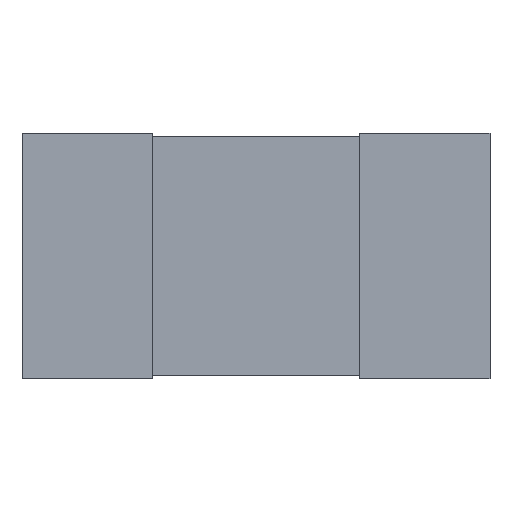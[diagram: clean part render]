
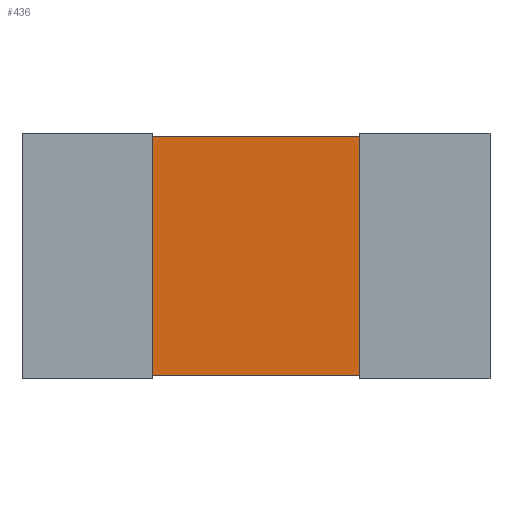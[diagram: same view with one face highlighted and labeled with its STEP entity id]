
A CAD part, top view. The second image highlights one B-rep face of the part: STEP entity #436.
In plain terms, the highlighted planar face has unit normal (0, 0, 1).
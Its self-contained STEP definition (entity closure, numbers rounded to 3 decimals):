
#212=CARTESIAN_POINT('',(3.391,-3.886,1.638));
#211=VERTEX_POINT('',#212);
#222=CARTESIAN_POINT('',(-3.391,-3.886,1.638));
#221=VERTEX_POINT('',#222);
#220=EDGE_CURVE('',#221,#211,#225,.T.);
#225=LINE('',#222,#227);
#227=VECTOR('',#228,6.782);
#228=DIRECTION('',(1.0,0.0,0.0));
#261=CARTESIAN_POINT('',(3.391,3.886,1.638));
#260=VERTEX_POINT('',#261);
#269=EDGE_CURVE('',#211,#260,#274,.T.);
#274=LINE('',#212,#276);
#276=VECTOR('',#277,7.772);
#277=DIRECTION('',(0.0,1.0,0.0));
#310=CARTESIAN_POINT('',(-3.391,3.886,1.638));
#309=VERTEX_POINT('',#310);
#318=EDGE_CURVE('',#260,#309,#323,.T.);
#323=LINE('',#261,#325);
#325=VECTOR('',#326,6.782);
#326=DIRECTION('',(-1.0,0.0,0.0));
#367=EDGE_CURVE('',#309,#221,#372,.T.);
#372=LINE('',#310,#374);
#374=VECTOR('',#375,7.772);
#375=DIRECTION('',(0.0,-1.0,0.0));
#436=ADVANCED_FACE('',(#442),#437,.T.);
#437=PLANE('',#438);
#438=AXIS2_PLACEMENT_3D('',#439,#440,#441);
#439=CARTESIAN_POINT('',(-3.391,-3.886,1.638));
#440=DIRECTION('',(0.0,0.0,1.0));
#441=DIRECTION('',(0.,1.,0.));
#442=FACE_OUTER_BOUND('',#443,.T.);
#443=EDGE_LOOP('',(#444,#454,#464,#474));
#444=ORIENTED_EDGE('',*,*,#220,.T.);
#454=ORIENTED_EDGE('',*,*,#269,.T.);
#464=ORIENTED_EDGE('',*,*,#318,.T.);
#474=ORIENTED_EDGE('',*,*,#367,.T.);
